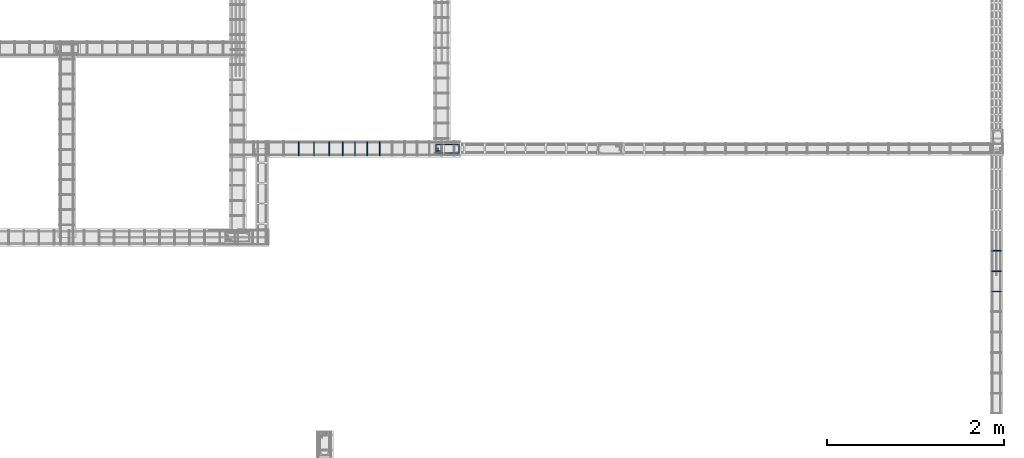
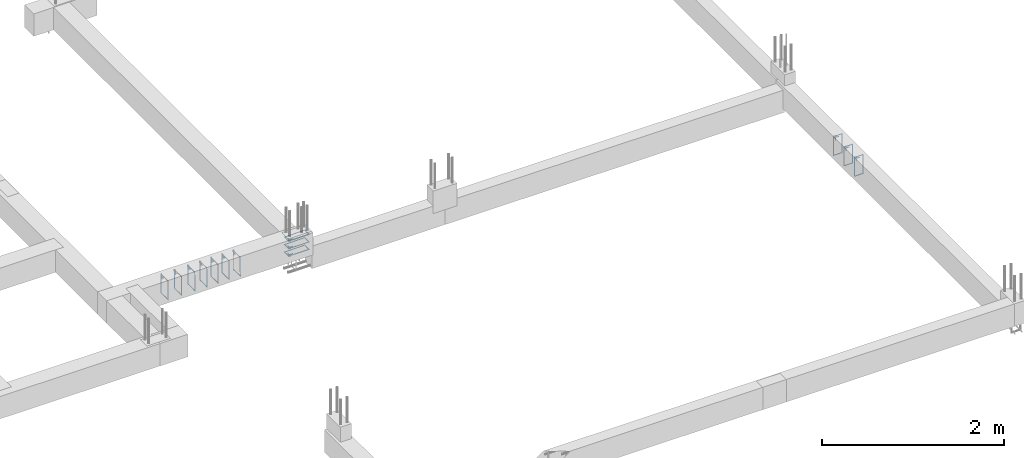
# One storey, part 91 of 150: 13 reinforcing bars.
"""IFC4 building model written with IfcOpenShell, lengths in centimetres."""

from ifc_helpers import new_model, entity, si_unit, derived_unit, frame, origin_with_axes, place, context, project, spatial, source, transform, mapped, element, save


model = new_model("IFC4")

# Units and contexts
model_context = context("Model", 3, precision=1e-05, world=origin_with_axes(), identifier="Body")
ifc_project = project(units=[si_unit("LENGTHUNIT", "METRE", prefix="CENTI"), si_unit("VOLUMEUNIT", "CUBIC_METRE"), si_unit("AREAUNIT", "SQUARE_METRE"), si_unit("POWERUNIT", "WATT"), si_unit("LUMINOUSFLUXUNIT", "LUMEN"), si_unit("ELECTRICCURRENTUNIT", "AMPERE"), si_unit("PRESSUREUNIT", "PASCAL", prefix="KILO"), si_unit("MASSUNIT", "GRAM", prefix="KILO"), si_unit("PLANEANGLEUNIT", "RADIAN"), derived_unit("VOLUMETRICFLOWRATEUNIT", [(si_unit("LENGTHUNIT", "METRE"), 3), (si_unit("TIMEUNIT", "SECOND"), -1)])], contexts=[model_context])

# Site, building, storey
site_placement = place(None, frame((-4000.0, 0.0, 0.0), z_axis=(0.0, 0.0, 1.0), x_axis=(1.0, 0.0, 0.0)))
site = spatial("IfcSite", under=ifc_project, at=site_placement, Name="PADRÃO")
building_placement = place(site_placement, frame((0.0, 0.0, -14.0)))
building = spatial("IfcBuilding", under=site, at=building_placement, Name="CRECHE PRÉ-ESCOLA TIPO 2")
placement = place(building_placement, origin_with_axes())
storey_placement = place(placement, frame((0.0, 0.0, 30.0), z_axis=(0.0, 0.0, 1.0), x_axis=(1.0, 0.0, 0.0)))
storey = spatial("IfcBuildingStorey", under=building, at=storey_placement, Name="VIGA BALDRAME", CompositionType="ELEMENT", Elevation=16.0)

# Reinforcing bars
shared_shape_1 = source(origin_with_axes(), model_context, "Body", "AdvancedSweptSolid", [
    entity("IfcSweptDiskSolid", entity("IfcCompositeCurve", [entity("IfcCompositeCurveSegment", "CONTINUOUS", True, entity("IfcPolyline", [entity("IfcCartesianPoint", [4.25, 21.75, 0.0]), entity("IfcCartesianPoint", [4.25, 27.75, 0.0])])), entity("IfcCompositeCurveSegment", "CONTINUOUS", True, entity("IfcPolyline", [entity("IfcCartesianPoint", [4.25, 27.75, 0.0]), entity("IfcCartesianPoint", [2.25, 27.75, 0.0])])), entity("IfcCompositeCurveSegment", "CONTINUOUS", True, entity("IfcPolyline", [entity("IfcCartesianPoint", [2.25, 27.75, 0.0]), entity("IfcCartesianPoint", [2.25, 2.25, 0.0])])), entity("IfcCompositeCurveSegment", "CONTINUOUS", True, entity("IfcPolyline", [entity("IfcCartesianPoint", [2.25, 2.25, 0.0]), entity("IfcCartesianPoint", [11.75, 2.25, 0.0])])), entity("IfcCompositeCurveSegment", "CONTINUOUS", True, entity("IfcPolyline", [entity("IfcCartesianPoint", [11.75, 2.25, 0.0]), entity("IfcCartesianPoint", [11.75, 27.75, -0.5])])), entity("IfcCompositeCurveSegment", "CONTINUOUS", True, entity("IfcPolyline", [entity("IfcCartesianPoint", [11.75, 27.75, -0.5]), entity("IfcCartesianPoint", [2.25, 27.75, -0.5])])), entity("IfcCompositeCurveSegment", "CONTINUOUS", True, entity("IfcPolyline", [entity("IfcCartesianPoint", [2.25, 27.75, -0.5]), entity("IfcCartesianPoint", [2.25, 25.75, -0.5])])), entity("IfcCompositeCurveSegment", "CONTINUOUS", True, entity("IfcPolyline", [entity("IfcCartesianPoint", [2.25, 25.75, -0.5]), entity("IfcCartesianPoint", [8.25, 25.75, -0.5])]))], False), 0.25),
])
for number, where, z_axis, x_axis, name in (
    (1, (3387.5, 508.01, -25.0), (0.0, 0.0, 1.0), (0.0, 1.0, 0.0), "P140 - Estribo"),
    (2, (3387.5, 508.01, -5.0), (0.0, 0.0, 1.0), (0.0, 1.0, 0.0), "P140 - Estribo"),
    (3, (3387.5, 508.01, -15.0), (0.0, 0.0, 1.0), (0.0, 1.0, 0.0), "P140 - Estribo"),
):
    element("IfcReinforcingBar", number, at=place(storey_placement, frame(where, z_axis=z_axis, x_axis=x_axis)), inside=storey, Name=name, BarLength=0.0, CrossSectionArea=1.9634954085e-05, NominalDiameter=0.5, PredefinedType="MAIN", context=model_context, shape_type="MappedRepresentation", body=[
        mapped(shared_shape_1, transform((0.0, 0.0, 0.0), scale=1.0)),
    ])
shared_shape_2 = source(origin_with_axes(), model_context, "Body", "AdvancedSweptSolid", [
    entity("IfcSweptDiskSolid", entity("IfcCompositeCurve", [entity("IfcCompositeCurveSegment", "CONTINUOUS", True, entity("IfcPolyline", [entity("IfcCartesianPoint", [2.0, -6.0, 0.0]), entity("IfcCartesianPoint", [2.0, 0.0, 0.0])])), entity("IfcCompositeCurveSegment", "CONTINUOUS", True, entity("IfcPolyline", [entity("IfcCartesianPoint", [2.0, 0.0, 0.0]), entity("IfcCartesianPoint", [0.0, 0.0, 0.0])])), entity("IfcCompositeCurveSegment", "CONTINUOUS", True, entity("IfcPolyline", [entity("IfcCartesianPoint", [0.0, 0.0, 0.0]), entity("IfcCartesianPoint", [0.0, -25.5, 0.0])])), entity("IfcCompositeCurveSegment", "CONTINUOUS", True, entity("IfcPolyline", [entity("IfcCartesianPoint", [0.0, -25.5, 0.0]), entity("IfcCartesianPoint", [10.5, -25.5, 0.0])])), entity("IfcCompositeCurveSegment", "CONTINUOUS", True, entity("IfcPolyline", [entity("IfcCartesianPoint", [10.5, -25.5, 0.0]), entity("IfcCartesianPoint", [10.5, 0.0, 0.5])])), entity("IfcCompositeCurveSegment", "CONTINUOUS", True, entity("IfcPolyline", [entity("IfcCartesianPoint", [10.5, 0.0, 0.5]), entity("IfcCartesianPoint", [0.0, 0.0, 0.5])])), entity("IfcCompositeCurveSegment", "CONTINUOUS", True, entity("IfcPolyline", [entity("IfcCartesianPoint", [0.0, 0.0, 0.5]), entity("IfcCartesianPoint", [0.0, -2.0, 0.5])])), entity("IfcCompositeCurveSegment", "CONTINUOUS", True, entity("IfcPolyline", [entity("IfcCartesianPoint", [0.0, -2.0, 0.5]), entity("IfcCartesianPoint", [6.0, -2.0, 0.5])]))], False), 0.25),
])
for number, where, z_axis, x_axis, name in (
    (4, (3986.25, 354.255, -17.25), (0.0, -1.0, 0.0), (1.0, 0.0, 0.0), "V230 - Estribo"),
    (5, (3986.25, 377.255, -17.25), (0.0, -1.0, 0.0), (1.0, 0.0, 0.0), "V230 - Estribo"),
    (6, (3986.25, 400.255, -17.25), (0.0, -1.0, 0.0), (1.0, 0.0, 0.0), "V230 - Estribo"),
):
    element("IfcReinforcingBar", number, at=place(storey_placement, frame(where, z_axis=z_axis, x_axis=x_axis)), inside=storey, Name=name, BarLength=0.0, CrossSectionArea=1.9634954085e-05, NominalDiameter=0.5, PredefinedType="MAIN", context=model_context, shape_type="MappedRepresentation", body=[
        mapped(shared_shape_2, transform((0.0, 0.0, 0.0), scale=1.0)),
    ])
shared_shape_3 = source(origin_with_axes(), model_context, "Body", "AdvancedSweptSolid", [
    entity("IfcSweptDiskSolid", entity("IfcCompositeCurve", [entity("IfcCompositeCurveSegment", "CONTINUOUS", True, entity("IfcPolyline", [entity("IfcCartesianPoint", [2.0, -6.0, 0.0]), entity("IfcCartesianPoint", [2.0, 0.0, 0.0])])), entity("IfcCompositeCurveSegment", "CONTINUOUS", True, entity("IfcPolyline", [entity("IfcCartesianPoint", [2.0, 0.0, 0.0]), entity("IfcCartesianPoint", [0.0, 0.0, 0.0])])), entity("IfcCompositeCurveSegment", "CONTINUOUS", True, entity("IfcPolyline", [entity("IfcCartesianPoint", [0.0, 0.0, 0.0]), entity("IfcCartesianPoint", [0.0, -25.5, 0.0])])), entity("IfcCompositeCurveSegment", "CONTINUOUS", True, entity("IfcPolyline", [entity("IfcCartesianPoint", [0.0, -25.5, 0.0]), entity("IfcCartesianPoint", [15.5, -25.5, 0.0])])), entity("IfcCompositeCurveSegment", "CONTINUOUS", True, entity("IfcPolyline", [entity("IfcCartesianPoint", [15.5, -25.5, 0.0]), entity("IfcCartesianPoint", [15.5, 0.0, 0.5])])), entity("IfcCompositeCurveSegment", "CONTINUOUS", True, entity("IfcPolyline", [entity("IfcCartesianPoint", [15.5, 0.0, 0.5]), entity("IfcCartesianPoint", [0.0, 0.0, 0.5])])), entity("IfcCompositeCurveSegment", "CONTINUOUS", True, entity("IfcPolyline", [entity("IfcCartesianPoint", [0.0, 0.0, 0.5]), entity("IfcCartesianPoint", [0.0, -2.0, 0.5])])), entity("IfcCompositeCurveSegment", "CONTINUOUS", True, entity("IfcPolyline", [entity("IfcCartesianPoint", [0.0, -2.0, 0.5]), entity("IfcCartesianPoint", [6.0, -2.0, 0.5])]))], False), 0.25),
])
for number, where, z_axis, x_axis, name in (
    (7, (3254.5, 522.76, -2.25), (-1.0, 0.0, 0.0), (0.0, -1.0, 0.0), "V152 - Estribo"),
    (8, (3268.5, 522.76, -2.25), (-1.0, 0.0, 0.0), (0.0, -1.0, 0.0), "V152 - Estribo"),
    (9, (3282.5, 522.76, -2.25), (-1.0, 0.0, 0.0), (0.0, -1.0, 0.0), "V152 - Estribo"),
    (10, (3296.5, 522.76, -2.25), (-1.0, 0.0, 0.0), (0.0, -1.0, 0.0), "V152 - Estribo"),
):
    element("IfcReinforcingBar", number, at=place(storey_placement, frame(where, z_axis=z_axis, x_axis=x_axis)), inside=storey, Name=name, BarLength=0.0, CrossSectionArea=1.9634954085e-05, NominalDiameter=0.5, PredefinedType="MAIN", context=model_context, shape_type="MappedRepresentation", body=[
        mapped(shared_shape_3, transform((0.0, 0.0, 0.0), scale=1.0)),
    ])
shared_shape_4 = source(origin_with_axes(), model_context, "Body", "AdvancedSweptSolid", [
    entity("IfcSweptDiskSolid", entity("IfcCompositeCurve", [entity("IfcCompositeCurveSegment", "CONTINUOUS", True, entity("IfcPolyline", [entity("IfcCartesianPoint", [2.0, -6.0, 0.0]), entity("IfcCartesianPoint", [2.0, 0.0, 0.0])])), entity("IfcCompositeCurveSegment", "CONTINUOUS", True, entity("IfcPolyline", [entity("IfcCartesianPoint", [2.0, 0.0, 0.0]), entity("IfcCartesianPoint", [0.0, 0.0, 0.0])])), entity("IfcCompositeCurveSegment", "CONTINUOUS", True, entity("IfcPolyline", [entity("IfcCartesianPoint", [0.0, 0.0, 0.0]), entity("IfcCartesianPoint", [0.0, -25.5, 0.0])])), entity("IfcCompositeCurveSegment", "CONTINUOUS", True, entity("IfcPolyline", [entity("IfcCartesianPoint", [0.0, -25.5, 0.0]), entity("IfcCartesianPoint", [15.5, -25.5, 0.0])])), entity("IfcCompositeCurveSegment", "CONTINUOUS", True, entity("IfcPolyline", [entity("IfcCartesianPoint", [15.5, -25.5, 0.0]), entity("IfcCartesianPoint", [15.5, 0.0, 0.5])])), entity("IfcCompositeCurveSegment", "CONTINUOUS", True, entity("IfcPolyline", [entity("IfcCartesianPoint", [15.5, 0.0, 0.5]), entity("IfcCartesianPoint", [0.0, 0.0, 0.5])])), entity("IfcCompositeCurveSegment", "CONTINUOUS", True, entity("IfcPolyline", [entity("IfcCartesianPoint", [0.0, 0.0, 0.5]), entity("IfcCartesianPoint", [0.0, -2.0, 0.5])])), entity("IfcCompositeCurveSegment", "CONTINUOUS", True, entity("IfcPolyline", [entity("IfcCartesianPoint", [0.0, -2.0, 0.5]), entity("IfcCartesianPoint", [6.0, -2.0, 0.5])]))], False), 0.25),
])
for number, where, z_axis, x_axis, name in (
    (11, (3239.25, 522.76, -2.25), (-1.0, 0.0, 0.0), (0.0, -1.0, 0.0), "V152 - Estribo"),
    (12, (3205.25, 522.76, -2.25), (-1.0, 0.0, 0.0), (0.0, -1.0, 0.0), "V152 - Estribo"),
    (13, (3222.25, 522.76, -2.25), (-1.0, 0.0, 0.0), (0.0, -1.0, 0.0), "V152 - Estribo"),
):
    element("IfcReinforcingBar", number, at=place(storey_placement, frame(where, z_axis=z_axis, x_axis=x_axis)), inside=storey, Name=name, BarLength=0.0, CrossSectionArea=1.9634954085e-05, NominalDiameter=0.5, PredefinedType="MAIN", context=model_context, shape_type="MappedRepresentation", body=[
        mapped(shared_shape_4, transform((0.0, 0.0, 0.0), scale=1.0)),
    ])

save(model, "model.ifc")
